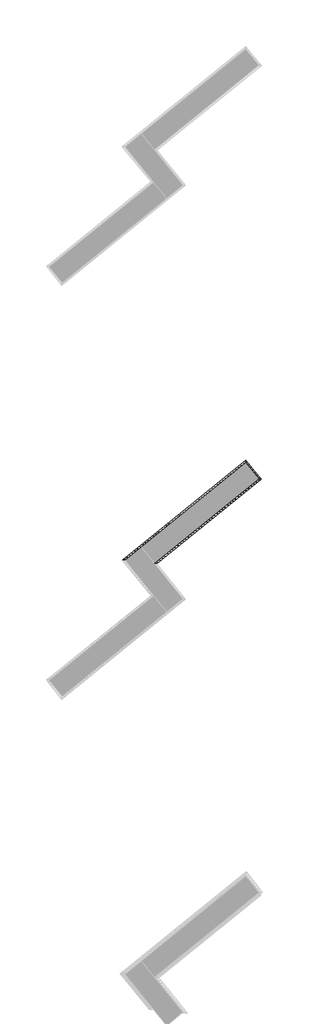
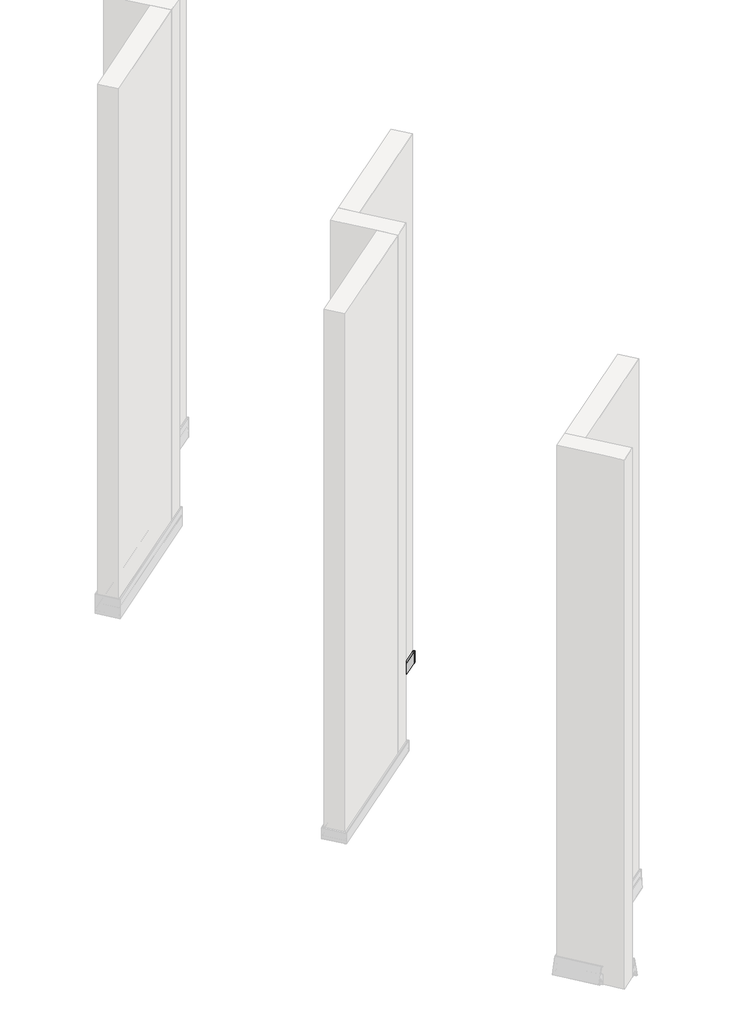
# One storey, part 7 of 21: 2 proxies.
"""IFC4 building model written with IfcOpenShell, lengths in millimetres."""

from ifc_helpers import new_model, si_unit, frame, origin, place, context, project, spatial, circle_curve, ellipse_curve, element, save
from ifc_brep_helpers import plane_surface, cylinder_surface, advanced_brep

model = new_model("IFC4")

# Units and contexts
model_context = context("Model", 3, world=origin())
ifc_project = project(units=[si_unit("LENGTHUNIT", "METRE", prefix="MILLI")], contexts=[model_context])

# Site, building, storey
site = spatial("IfcSite", under=ifc_project)
building = spatial("IfcBuilding", under=site)
storey = spatial("IfcBuildingStorey", under=building, Name="Izofleks 2D View", Elevation=0.0)

# Proxies
placement = place(None, origin())
element("IfcBuildingElementProxy", 1, Name="Wall Sweeps", at=placement, inside=storey, context=model_context, shape_type="AdvancedBrep", body=[
    advanced_brep(
    [(2292.1668459, -7174.088255, 49.8941385), (2293.3129652, -7174.208717, 48.7266957), (2292.7262724, -7174.1470531, 47.88979), (2289.8664199, -7173.8464705, 47.88979), (2289.8664199, -7173.8464705, 53.99999), (2288.0380278, -7173.6542987, 54.99999), (2288.0380278, -7173.6542987, 0.0), (2289.8664199, -7173.8464705, 0.0), (2289.8664199, -7173.8464705, 16.99999), (2296.8983438, -7174.5855554, 16.99999), (2296.8922655, -7174.5849166, 18.30079), (2294.6001982, -7174.3440106, 18.30079), (2297.3367663, -7174.6316355, 27.1404306), (2296.6513787, -7174.5595984, 27.7479135), (2295.2879611, -7174.4162974, 27.7479135), (2295.5576132, -7174.444639, 28.7655004), (2298.9439622, -7174.8005586, 28.7655004), (2298.9439622, -7174.8005586, 4.2583289), (2296.1306076, -7174.5048631, 4.2583289), (2296.1306076, -7174.5048631, 0.4656126), (2297.9590138, -7174.6970364, 0.4656126), (2297.9590138, -7174.6970364, 2.9583289), (2300.7723685, -7174.9927318, 2.9583289), (2300.7723685, -7174.9927318, 60.0), (2289.5206376, -7173.8101273, 60.0), (2289.5206376, -7173.8101273, 58.5), (2298.9439622, -7174.8005586, 58.5), (2298.9439622, -7174.8005586, 57.2161063), (2295.2404015, -7174.4112987, 57.2161063), (2293.8573559, -7174.2659347, 56.3978398), (2795.4642899, -6762.7486136, 49.8941385), (2796.3983848, -6761.9921985, 56.3978398), (2797.1625896, -6761.3733576, 57.2161063), (2799.2089999, -6759.7162072, 57.2161063), (2799.2089999, -6759.7162072, 58.5), (2794.0021219, -6763.9326539, 58.5), (2794.0021219, -6763.9326539, 60.0), (2800.2192896, -6758.8980907, 60.0), (2800.2192896, -6758.8980907, 2.9583289), (2798.6647646, -6760.1569203, 2.9583289), (2798.6647646, -6760.1569203, 0.4656126), (2797.6544748, -6760.9750368, 0.4656126), (2797.6544748, -6760.9750368, 4.2583289), (2799.2089999, -6759.7162072, 4.2583289), (2799.2089999, -6759.7162072, 28.7655004), (2797.3378655, -6761.2314219, 28.7655004), (2797.1888688, -6761.3520772, 27.7479135), (2797.942228, -6760.7420189, 27.7479135), (2798.3209404, -6760.4353436, 27.1404306), (2796.8088439, -6761.6598152, 18.30079), (2798.0753305, -6760.6342346, 18.30079), (2798.0786891, -6760.6315149, 16.99999), (2794.1931847, -6763.7779343, 16.99999), (2794.1931847, -6763.7779343, 0.0), (2793.1829027, -6764.5960445, 0.0), (2793.1829027, -6764.5960445, 54.99999), (2794.1931847, -6763.7779343, 53.99999), (2794.1931847, -6763.7779343, 47.88979), (2795.7734022, -6762.4982994, 47.88979), (2796.0975806, -6762.2357849, 48.7266957), (2797.3117208, -6765.0300008, 49.8941385), (2799.0022309, -6765.2076806, 56.3978398), (2800.3852765, -6765.3530445, 57.2161063), (2804.0888372, -6765.7423044, 57.2161063), (2804.0888372, -6765.7423044, 58.5), (2794.6655126, -6764.7518731, 58.5), (2794.6655126, -6764.7518731, 60.0), (2805.9172434, -6765.9344777, 60.0), (2805.9172434, -6765.9344777, 2.9583289), (2803.1038888, -6765.6387822, 2.9583289), (2803.1038888, -6765.6387822, 0.4656126), (2801.2754825, -6765.4466089, 0.4656126), (2801.2754825, -6765.4466089, 4.2583289), (2804.0888372, -6765.7423044, 4.2583289), (2804.0888372, -6765.7423044, 28.7655004), (2800.7024881, -6765.3863848, 28.7655004), (2800.4328361, -6765.3580432, 27.7479135), (2801.7962536, -6765.5013442, 27.7479135), (2802.4816413, -6765.5733813, 27.1404306), (2799.7450732, -6765.2857564, 18.30079), (2802.0371404, -6765.5266624, 18.30079), (2802.0432188, -6765.5273013, 16.99999), (2795.0112949, -6764.7882163, 16.99999), (2795.0112949, -6764.7882163, 0.0), (2795.0112949, -6764.7882163, 53.99999), (2795.0112949, -6764.7882163, 47.88979), (2797.8711473, -6765.0887989, 47.88979), (2798.4578402, -6765.1504628, 48.7266957)],
    [
        (0, 1, ellipse_curve(frame((2293.5498915, -7174.2336189, 49.712405), z_axis=(-0.10452846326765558, -0.9945218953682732, 0.0), x_axis=(0.9945218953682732, -0.10452846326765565, 0.0)), 1.4142136, 1.0)),
        (1, 2),
        (2, 3),
        (3, 4),
        (4, 5, ellipse_curve(frame((2288.3885058, -7173.6911354, 53.9789482), z_axis=(-0.10452846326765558, -0.9945218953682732, 0.0), x_axis=(0.9945218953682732, -0.10452846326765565, 0.0)), 1.4863528, 1.0510102)),
        (5, 6),
        (6, 7),
        (7, 8),
        (8, 9),
        (9, 10, ellipse_curve(frame((2296.7280877, -7174.5676608, 17.649995), z_axis=(-0.10452846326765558, -0.9945218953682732, 0.0), x_axis=(0.9945218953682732, -0.10452846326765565, 0.0)), 0.935051, 0.6611809)),
        (10, 11),
        (11, 12),
        (12, 13, ellipse_curve(frame((2296.6499722, -7174.5594505, 27.2479135), z_axis=(-0.10452846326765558, -0.9945218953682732, 0.0), x_axis=(0.9945218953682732, -0.10452846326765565, 0.0)), 0.7071082, 0.500001)),
        (13, 14),
        (14, 15),
        (15, 16),
        (16, 17),
        (17, 18),
        (18, 19),
        (19, 20),
        (20, 21),
        (21, 22),
        (22, 23),
        (23, 24),
        (24, 25),
        (25, 26),
        (26, 27),
        (27, 28),
        (28, 29, ellipse_curve(frame((2295.2404015, -7174.4112987, 56.2161063), z_axis=(-0.10452846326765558, -0.9945218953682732, 0.0), x_axis=(0.9945218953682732, -0.10452846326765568, 0.0)), 1.4142136, 1.0)),
        (29, 0),
        (30, 31),
        (31, 32, circle_curve(frame((2797.1625896, -6761.3733576, 56.2161063), z_axis=(-0.6293203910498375, 0.7771459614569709, 0.0), x_axis=(-0.76420478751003, -0.6188408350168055, 0.18173349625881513)), 1.0)),
        (32, 33),
        (33, 34),
        (34, 35),
        (35, 36),
        (36, 37),
        (37, 38),
        (38, 39),
        (39, 40),
        (40, 41),
        (41, 42),
        (42, 43),
        (43, 44),
        (44, 45),
        (45, 46),
        (46, 47),
        (47, 48, circle_curve(frame((2797.9414508, -6760.7426482, 27.2479135), z_axis=(-0.6293203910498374, 0.7771459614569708, 0.0), x_axis=(0.777145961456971, 0.6293203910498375, 0.0)), 0.500001)),
        (48, 49),
        (49, 50),
        (50, 51, circle_curve(frame((2797.9846137, -6760.7076956, 17.649995), z_axis=(-0.6293203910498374, 0.7771459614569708, 0.0), x_axis=(0.777145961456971, 0.6293203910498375, 0.0)), 0.6611809)),
        (51, 52),
        (52, 53),
        (53, 54),
        (54, 55),
        (55, 56, circle_curve(frame((2793.3765601, -6764.4392239, 53.9789482), z_axis=(-0.6293203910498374, 0.7771459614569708, 0.0), x_axis=(0.777145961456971, 0.6293203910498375, 0.0)), 1.0510102)),
        (56, 57),
        (57, 58),
        (58, 59),
        (59, 30, circle_curve(frame((2796.2284947, -6762.1297728, 49.712405), z_axis=(-0.6293203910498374, 0.7771459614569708, 0.0), x_axis=(0.777145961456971, 0.6293203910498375, 0.0)), 1.0)),
        (30, 60),
        (60, 61),
        (61, 31),
        (61, 62, ellipse_curve(frame((2800.3852765, -6765.3530445, 56.2161063), z_axis=(0.10452846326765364, 0.9945218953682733, 0.0), x_axis=(-0.9945218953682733, 0.10452846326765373, 0.0)), 1.4142136, 1.0)),
        (62, 32),
        (62, 63),
        (63, 33),
        (63, 64),
        (64, 34),
        (64, 65),
        (65, 35),
        (65, 66),
        (66, 36),
        (66, 67),
        (67, 37),
        (67, 68),
        (68, 38),
        (68, 69),
        (69, 39),
        (69, 70),
        (70, 40),
        (70, 71),
        (71, 41),
        (71, 72),
        (72, 42),
        (72, 73),
        (73, 43),
        (73, 74),
        (74, 44),
        (74, 75),
        (75, 45),
        (75, 76),
        (76, 46),
        (76, 77),
        (77, 47),
        (77, 78, ellipse_curve(frame((2801.7948471, -6765.5011964, 27.2479135), z_axis=(0.1045284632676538, 0.9945218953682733, 0.0), x_axis=(-0.9945218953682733, 0.10452846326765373, 0.0)), 0.7071082, 0.500001)),
        (78, 48),
        (78, 79),
        (79, 49),
        (79, 80),
        (80, 50),
        (80, 81, ellipse_curve(frame((2801.8729627, -6765.5094066, 17.649995), z_axis=(0.1045284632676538, 0.9945218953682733, 0.0), x_axis=(-0.9945218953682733, 0.10452846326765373, 0.0)), 0.935051, 0.6611809)),
        (81, 51),
        (81, 82),
        (82, 52),
        (82, 83),
        (83, 53),
        (83, 54),
        (55, 84, ellipse_curve(frame((2793.5333808, -6764.6328812, 53.9789482), z_axis=(0.1045284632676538, 0.9945218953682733, 0.0), x_axis=(-0.9945218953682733, 0.10452846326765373, 0.0)), 1.4863528, 1.0510102)),
        (84, 56),
        (84, 85),
        (85, 57),
        (85, 86),
        (86, 58),
        (86, 87),
        (87, 59),
        (87, 60, ellipse_curve(frame((2798.6947664, -6765.1753647, 49.712405), z_axis=(0.1045284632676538, 0.9945218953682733, 0.0), x_axis=(-0.9945218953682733, 0.10452846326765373, 0.0)), 1.4142136, 1.0)),
        (60, 0),
        (29, 61),
        (28, 62),
        (27, 63),
        (26, 64),
        (25, 65),
        (24, 66),
        (23, 67),
        (22, 68),
        (21, 69),
        (20, 70),
        (19, 71),
        (18, 72),
        (17, 73),
        (16, 74),
        (15, 75),
        (14, 76),
        (13, 77),
        (12, 78),
        (11, 79),
        (10, 80),
        (9, 81),
        (8, 82),
        (7, 83),
        (6, 54),
        (5, 55),
        (4, 84),
        (3, 85),
        (2, 86),
        (1, 87),
    ],
    [
        plane_surface(frame((2288.0380278, -7173.6542987, -304.8), z_axis=(-0.10452846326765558, -0.9945218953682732, 0.0), x_axis=(0.9945218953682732, -0.10452846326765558, 0.0))),
        plane_surface(frame((2793.1829027, -6764.5960445, 0.0), z_axis=(-0.6293203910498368, 0.7771459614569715, 0.0), x_axis=(0.7771459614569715, 0.6293203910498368, 0.0))),
        plane_surface(frame((2795.4642899, -6762.7486136, 49.8941385), z_axis=(-0.7642047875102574, -0.6188408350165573, 0.18173349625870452), x_axis=(0.6293203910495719, -0.777145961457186, 0.0))),
        cylinder_surface(frame((2797.1625896, -6761.3733576, 56.2161063), z_axis=(-0.6293203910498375, 0.7771459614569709, 0.0), x_axis=(-0.76420478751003, -0.6188408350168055, 0.18173349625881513)), 1.0),
        plane_surface(frame((2797.1625896, -6761.3733576, 57.2161063), z_axis=(0.0, 0.0, 1.0), x_axis=(0.6293203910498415, -0.7771459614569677, 0.0))),
        plane_surface(frame((2799.2089999, -6759.7162072, 57.2161063), z_axis=(-0.777145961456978, -0.6293203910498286, 0.0), x_axis=(0.6293203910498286, -0.777145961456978, 0.0))),
        plane_surface(frame((2799.2089999, -6759.7162072, 58.5), z_axis=(0.0, 0.0, -1.0), x_axis=(0.6293203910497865, -0.7771459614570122, 0.0))),
        plane_surface(frame((2794.0021219, -6763.9326539, 58.5), z_axis=(-0.7771459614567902, -0.6293203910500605, 0.0), x_axis=(0.6293203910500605, -0.7771459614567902, 0.0))),
        plane_surface(frame((2794.0021219, -6763.9326539, 60.0), z_axis=(0.0, 0.0, 1.0), x_axis=(0.6293203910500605, -0.7771459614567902, 0.0))),
        plane_surface(frame((2800.2192896, -6758.8980907, 60.0), z_axis=(0.7771459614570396, 0.6293203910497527, 0.0), x_axis=(0.6293203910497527, -0.7771459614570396, 0.0))),
        plane_surface(frame((2800.2192896, -6758.8980907, 2.9583289), z_axis=(0.0, 0.0, -1.0), x_axis=(0.6293203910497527, -0.7771459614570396, 0.0))),
        plane_surface(frame((2798.6647646, -6760.1569203, 2.9583289), z_axis=(0.7771459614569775, 0.6293203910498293, 0.0), x_axis=(0.6293203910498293, -0.7771459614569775, 0.0))),
        plane_surface(frame((2798.6647646, -6760.1569203, 0.4656126), z_axis=(0.0, 0.0, -1.0), x_axis=(0.6293203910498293, -0.7771459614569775, 0.0))),
        plane_surface(frame((2797.6544748, -6760.9750368, 0.4656126), z_axis=(-0.7771459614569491, -0.6293203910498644, 0.0), x_axis=(0.6293203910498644, -0.7771459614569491, 0.0))),
        plane_surface(frame((2797.6544748, -6760.9750368, 4.2583289), z_axis=(0.0, 0.0, 1.0), x_axis=(0.6293203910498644, -0.7771459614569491, 0.0))),
        plane_surface(frame((2799.2089999, -6759.7162072, 4.2583289), z_axis=(-0.777145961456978, -0.6293203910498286, 0.0), x_axis=(0.6293203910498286, -0.777145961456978, 0.0))),
        plane_surface(frame((2799.2089999, -6759.7162072, 28.7655004), z_axis=(0.0, 0.0, -1.0), x_axis=(0.6293203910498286, -0.777145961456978, 0.0))),
        plane_surface(frame((2797.3378655, -6761.2314219, 28.7655004), z_axis=(0.7637090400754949, 0.6184393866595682, -0.18515190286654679), x_axis=(0.6293203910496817, -0.777145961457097, 0.0))),
        plane_surface(frame((2797.1888688, -6761.3520772, 27.7479135), z_axis=(0.0, 0.0, 1.0000000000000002), x_axis=(0.6293203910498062, -0.7771459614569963, 0.0))),
        cylinder_surface(frame((2797.9414508, -6760.7426482, 27.2479135), z_axis=(-0.6293203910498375, 0.777145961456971, 0.0), x_axis=(0.777145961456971, 0.6293203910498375, 0.0)), 0.500001),
        plane_surface(frame((2798.3209404, -6760.4353436, 27.1404306), z_axis=(0.7589775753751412, 0.6146079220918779, -0.21496544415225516), x_axis=(0.6293203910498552, -0.7771459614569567, 0.0))),
        plane_surface(frame((2796.8088439, -6761.6598152, 18.30079), z_axis=(0.0, 0.0, 1.0), x_axis=(0.6293203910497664, -0.7771459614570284, 0.0))),
        cylinder_surface(frame((2797.9846137, -6760.7076956, 17.649995), z_axis=(-0.6293203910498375, 0.777145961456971, 0.0), x_axis=(0.777145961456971, 0.6293203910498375, 0.0)), 0.6611809),
        plane_surface(frame((2798.0786891, -6760.6315149, 16.99999), z_axis=(0.0, 0.0, -1.0000000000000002), x_axis=(0.6293203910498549, -0.7771459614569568, 0.0))),
        plane_surface(frame((2794.1931847, -6763.7779343, 16.99999), z_axis=(0.777145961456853, 0.6293203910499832, 0.0), x_axis=(0.6293203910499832, -0.777145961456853, 0.0))),
        plane_surface(frame((2794.1931847, -6763.7779343, 0.0), z_axis=(0.0, 0.0, -1.0), x_axis=(0.6293203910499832, -0.777145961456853, 0.0))),
        cylinder_surface(frame((2793.3765601, -6764.4392239, 53.9789482), z_axis=(-0.6293203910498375, 0.777145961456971, 0.0), x_axis=(0.777145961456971, 0.6293203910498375, 0.0)), 1.0510102),
        plane_surface(frame((2794.1931847, -6763.7779343, 53.99999), z_axis=(0.777145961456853, 0.6293203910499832, 0.0), x_axis=(0.6293203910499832, -0.777145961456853, 0.0))),
        plane_surface(frame((2794.1931847, -6763.7779343, 47.88979), z_axis=(0.0, 0.0, 1.0), x_axis=(0.6293203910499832, -0.777145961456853, 0.0))),
        plane_surface(frame((2795.7734022, -6762.4982994, 47.88979), z_axis=(-0.6955364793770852, -0.5632343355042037, 0.44608977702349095), x_axis=(0.6293203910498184, -0.7771459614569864, 0.0))),
        cylinder_surface(frame((2796.2284947, -6762.1297728, 49.712405), z_axis=(-0.6293203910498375, 0.777145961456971, 0.0), x_axis=(0.777145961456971, 0.6293203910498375, 0.0)), 1.0),
        plane_surface(frame((2797.3117208, -6765.0300008, 49.8941385), z_axis=(-0.6188408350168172, 0.764204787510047, 0.18173349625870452), x_axis=(-0.7771459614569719, -0.6293203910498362, 0.0))),
        cylinder_surface(frame((2796.4055896, -6768.5757314, 56.2161063), z_axis=(0.7771459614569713, 0.6293203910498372, 0.0), x_axis=(-0.6188408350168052, 0.7642047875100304, 0.18173349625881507)), 1.0),
        plane_surface(frame((2800.3852765, -6765.3530445, 57.2161063), z_axis=(0.0, 0.0, 1.0), x_axis=(-0.7771459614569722, -0.6293203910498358, 0.0))),
        plane_surface(frame((2804.0888372, -6765.7423044, 57.2161063), z_axis=(-0.6293203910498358, 0.7771459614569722, 0.0), x_axis=(-0.7771459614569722, -0.6293203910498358, 0.0))),
        plane_surface(frame((2804.0888372, -6765.7423044, 58.5), z_axis=(0.0, 0.0, -1.0), x_axis=(-0.7771459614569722, -0.6293203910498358, 0.0))),
        plane_surface(frame((2794.6655126, -6764.7518731, 58.5), z_axis=(-0.6293203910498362, 0.7771459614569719, 0.0), x_axis=(-0.7771459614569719, -0.6293203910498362, 0.0))),
        plane_surface(frame((2794.6655126, -6764.7518731, 60.0), z_axis=(0.0, 0.0, 1.0), x_axis=(-0.7771459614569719, -0.6293203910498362, 0.0))),
        plane_surface(frame((2805.9172434, -6765.9344777, 60.0), z_axis=(0.6293203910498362, -0.7771459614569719, 0.0), x_axis=(-0.7771459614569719, -0.6293203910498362, 0.0))),
        plane_surface(frame((2805.9172434, -6765.9344777, 2.9583289), z_axis=(0.0, 0.0, -1.0), x_axis=(-0.7771459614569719, -0.6293203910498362, 0.0))),
        plane_surface(frame((2803.1038888, -6765.6387822, 2.9583289), z_axis=(0.6293203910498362, -0.7771459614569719, 0.0), x_axis=(-0.7771459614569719, -0.6293203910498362, 0.0))),
        plane_surface(frame((2803.1038888, -6765.6387822, 0.4656126), z_axis=(0.0, 0.0, -1.0), x_axis=(-0.7771459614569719, -0.6293203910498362, 0.0))),
        plane_surface(frame((2801.2754825, -6765.4466089, 0.4656126), z_axis=(-0.6293203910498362, 0.7771459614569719, 0.0), x_axis=(-0.7771459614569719, -0.6293203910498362, 0.0))),
        plane_surface(frame((2801.2754825, -6765.4466089, 4.2583289), z_axis=(0.0, 0.0, 1.0), x_axis=(-0.7771459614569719, -0.6293203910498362, 0.0))),
        plane_surface(frame((2804.0888372, -6765.7423044, 4.2583289), z_axis=(-0.6293203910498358, 0.7771459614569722, 0.0), x_axis=(-0.7771459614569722, -0.6293203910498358, 0.0))),
        plane_surface(frame((2804.0888372, -6765.7423044, 28.7655004), z_axis=(0.0, 0.0, -1.0), x_axis=(-0.7771459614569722, -0.6293203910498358, 0.0))),
        plane_surface(frame((2800.7024881, -6765.3863848, 28.7655004), z_axis=(0.61843938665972, -0.763709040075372, -0.18515190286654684), x_axis=(-0.7771459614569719, -0.6293203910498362, 0.0))),
        plane_surface(frame((2800.4328361, -6765.3580432, 27.7479135), z_axis=(0.0, 0.0, 1.0), x_axis=(-0.7771459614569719, -0.6293203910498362, 0.0))),
        cylinder_surface(frame((2797.036299, -6769.3545927, 27.2479135), z_axis=(0.7771459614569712, 0.629320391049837, 0.0), x_axis=(0.629320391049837, -0.7771459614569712, 0.0)), 0.500001),
        plane_surface(frame((2802.4816413, -6765.5733813, 27.1404306), z_axis=(0.6146079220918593, -0.7589775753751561, -0.2149654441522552), x_axis=(-0.7771459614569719, -0.6293203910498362, 0.0))),
        plane_surface(frame((2799.7450732, -6765.2857564, 18.30079), z_axis=(0.0, 0.0, 1.0), x_axis=(-0.7771459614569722, -0.6293203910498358, 0.0))),
        cylinder_surface(frame((2797.0712516, -6769.3977556, 17.649995), z_axis=(0.7771459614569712, 0.629320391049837, 0.0), x_axis=(0.629320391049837, -0.7771459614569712, 0.0)), 0.6611809),
        plane_surface(frame((2802.0432188, -6765.5273013, 16.99999), z_axis=(0.0, 0.0, -1.0), x_axis=(-0.7771459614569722, -0.6293203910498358, 0.0))),
        plane_surface(frame((2795.0112949, -6764.7882163, 16.99999), z_axis=(0.6293203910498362, -0.7771459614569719, 0.0), x_axis=(-0.7771459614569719, -0.6293203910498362, 0.0))),
        plane_surface(frame((2795.0112949, -6764.7882163, 0.0), z_axis=(0.0, 0.0, -1.0), x_axis=(-0.7771459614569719, -0.6293203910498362, 0.0))),
        plane_surface(frame((2793.1829027, -6764.5960445, 0.0), z_axis=(-0.6293203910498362, 0.7771459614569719, 0.0), x_axis=(-0.7771459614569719, -0.6293203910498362, 0.0))),
        cylinder_surface(frame((2793.3397234, -6764.7897019, 53.9789482), z_axis=(0.7771459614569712, 0.629320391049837, 0.0), x_axis=(0.629320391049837, -0.7771459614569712, 0.0)), 1.0510102),
        plane_surface(frame((2795.0112949, -6764.7882163, 53.99999), z_axis=(0.6293203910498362, -0.7771459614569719, 0.0), x_axis=(-0.7771459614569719, -0.6293203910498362, 0.0))),
        plane_surface(frame((2795.0112949, -6764.7882163, 47.88979), z_axis=(0.0, 0.0, 1.0), x_axis=(-0.7771459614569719, -0.6293203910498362, 0.0))),
        plane_surface(frame((2797.8711473, -6765.0887989, 47.88979), z_axis=(-0.5632343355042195, 0.6955364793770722, 0.44608977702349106), x_axis=(-0.7771459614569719, -0.6293203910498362, 0.0))),
        cylinder_surface(frame((2795.6491745, -6767.6416365, 49.712405), z_axis=(0.7771459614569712, 0.629320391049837, 0.0), x_axis=(0.629320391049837, -0.7771459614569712, 0.0)), 1.0),
    ],
    [
        (0, [[1, 2, 3, 4, 5, 6, 7, 8, 9, 10, 11, 12, 13, 14, 15, 16, 17, 18, 19, 20, 21, 22, 23, 24, 25, 26, 27, 28, 29, 30]]),
        (1, [[31, 32, 33, 34, 35, 36, 37, 38, 39, 40, 41, 42, 43, 44, 45, 46, 47, 48, 49, 50, 51, 52, 53, 54, 55, 56, 57, 58, 59, 60]]),
        (2, [[-31, 61, 62, 63]]),
        (3, [[-32, -63, 64, 65]]),
        (4, [[-33, -65, 66, 67]]),
        (5, [[-34, -67, 68, 69]]),
        (6, [[-35, -69, 70, 71]]),
        (7, [[-36, -71, 72, 73]]),
        (8, [[-37, -73, 74, 75]]),
        (9, [[-38, -75, 76, 77]]),
        (10, [[-39, -77, 78, 79]]),
        (11, [[-40, -79, 80, 81]]),
        (12, [[-41, -81, 82, 83]]),
        (13, [[-42, -83, 84, 85]]),
        (14, [[-43, -85, 86, 87]]),
        (15, [[-44, -87, 88, 89]]),
        (16, [[-45, -89, 90, 91]]),
        (17, [[-46, -91, 92, 93]]),
        (18, [[-47, -93, 94, 95]]),
        (19, [[-48, -95, 96, 97]]),
        (20, [[-49, -97, 98, 99]]),
        (21, [[-50, -99, 100, 101]]),
        (22, [[-51, -101, 102, 103]]),
        (23, [[-52, -103, 104, 105]]),
        (24, [[-53, -105, 106, 107]]),
        (25, [[-54, -107, 108]]),
        (26, [[-56, 109, 110]]),
        (27, [[-57, -110, 111, 112]]),
        (28, [[-58, -112, 113, 114]]),
        (29, [[-59, -114, 115, 116]]),
        (30, [[-60, -116, 117, -61]]),
        (31, [[-62, 118, -30, 119]]),
        (32, [[-64, -119, -29, 120]]),
        (33, [[-66, -120, -28, 121]]),
        (34, [[-68, -121, -27, 122]]),
        (35, [[-70, -122, -26, 123]]),
        (36, [[-72, -123, -25, 124]]),
        (37, [[-74, -124, -24, 125]]),
        (38, [[-76, -125, -23, 126]]),
        (39, [[-78, -126, -22, 127]]),
        (40, [[-80, -127, -21, 128]]),
        (41, [[-82, -128, -20, 129]]),
        (42, [[-84, -129, -19, 130]]),
        (43, [[-86, -130, -18, 131]]),
        (44, [[-88, -131, -17, 132]]),
        (45, [[-90, -132, -16, 133]]),
        (46, [[-92, -133, -15, 134]]),
        (47, [[-94, -134, -14, 135]]),
        (48, [[-96, -135, -13, 136]]),
        (49, [[-98, -136, -12, 137]]),
        (50, [[-100, -137, -11, 138]]),
        (51, [[-102, -138, -10, 139]]),
        (52, [[-104, -139, -9, 140]]),
        (53, [[-106, -140, -8, 141]]),
        (54, [[-108, -141, -7, 142]]),
        (55, [[-55, -142, -6, 143]]),
        (56, [[-109, -143, -5, 144]]),
        (57, [[-111, -144, -4, 145]]),
        (58, [[-113, -145, -3, 146]]),
        (59, [[-115, -146, -2, 147]]),
        (60, [[-117, -147, -1, -118]]),
    ],
),
])
element("IfcBuildingElementProxy", 2, Name="Wall Sweeps", at=placement, inside=storey, context=model_context, shape_type="AdvancedBrep", body=[
    advanced_brep(
    [(2143.2625744, -7158.4377854, 49.8941385), (2141.5720643, -7158.2601056, 56.3978398), (2140.1890187, -7158.1147417, 57.2161063), (2136.485458, -7157.7254818, 57.2161063), (2136.485458, -7157.7254818, 58.5), (2145.9087826, -7158.7159131, 58.5), (2145.9087826, -7158.7159131, 60.0), (2134.6570518, -7157.5333085, 60.0), (2134.6570518, -7157.5333085, 2.9583289), (2137.4704064, -7157.829004, 2.9583289), (2137.4704064, -7157.829004, 0.4656126), (2139.2988127, -7158.0211772, 0.4656126), (2139.2988127, -7158.0211772, 4.2583289), (2136.485458, -7157.7254818, 4.2583289), (2136.485458, -7157.7254818, 28.7655004), (2139.8718071, -7158.0814014, 28.7655004), (2140.1414591, -7158.109743, 27.7479135), (2138.7780416, -7157.966442, 27.7479135), (2138.0926539, -7157.8944049, 27.1404306), (2140.829222, -7158.1820298, 18.30079), (2138.5371548, -7157.9411238, 18.30079), (2138.5310764, -7157.9404849, 16.99999), (2145.5630003, -7158.6795699, 16.99999), (2145.5630003, -7158.6795699, 0.0), (2147.3913925, -7158.8717417, 0.0), (2147.3913925, -7158.8717417, 54.99999), (2145.5630003, -7158.6795699, 53.99999), (2145.5630003, -7158.6795699, 47.88979), (2142.7031479, -7158.3789873, 47.88979), (2142.116455, -7158.3173234, 48.7266957), (2801.2053333, -6769.8382117, 49.8941385), (2801.8386239, -6769.325383, 48.7266957), (2801.5144456, -6769.5878975, 47.88979), (2799.934228, -6770.8675324, 47.88979), (2799.934228, -6770.8675324, 53.99999), (2798.9239461, -6771.6856426, 54.99999), (2798.9239461, -6771.6856426, 0.0), (2799.934228, -6770.8675324, 0.0), (2799.934228, -6770.8675324, 16.99999), (2803.8197325, -6767.721113, 16.99999), (2803.8163739, -6767.7238327, 18.30079), (2802.5498873, -6768.7494134, 18.30079), (2804.0619837, -6767.5249418, 27.1404306), (2803.6832713, -6767.831617, 27.7479135), (2802.9299121, -6768.4416753, 27.7479135), (2803.0789089, -6768.3210201, 28.7655004), (2804.9500432, -6766.8058054, 28.7655004), (2804.9500432, -6766.8058054, 4.2583289), (2803.3955182, -6768.0646349, 4.2583289), (2803.3955182, -6768.0646349, 0.4656126), (2804.4058079, -6767.2465184, 0.4656126), (2804.4058079, -6767.2465184, 2.9583289), (2805.960333, -6765.9876889, 2.9583289), (2805.960333, -6765.9876889, 60.0), (2799.7431653, -6771.022252, 60.0), (2799.7431653, -6771.022252, 58.5), (2804.9500432, -6766.8058054, 58.5), (2804.9500432, -6766.8058054, 57.2161063), (2802.903633, -6768.4629557, 57.2161063), (2802.1394282, -6769.0817966, 56.3978398), (2730.6848199, -6682.7526303, 49.8941385), (2730.8052819, -6681.6065109, 48.7266957), (2730.743618, -6682.1932038, 47.88979), (2730.4430354, -6685.0530562, 47.88979), (2730.4430354, -6685.0530562, 53.99999), (2730.2508636, -6686.8814484, 54.99999), (2730.2508636, -6686.8814484, 0.0), (2793.1829027, -6764.5960445, 0.0), (2730.4430354, -6685.0530562, 0.0), (2730.4430354, -6685.0530562, 16.99999), (2731.1821203, -6678.0211323, 16.99999), (2731.1814815, -6678.0272106, 18.30079), (2730.9405755, -6680.3192779, 18.30079), (2731.2282004, -6677.5827098, 27.1404306), (2731.1561633, -6678.2680975, 27.7479135), (2731.0128623, -6679.631515, 27.7479135), (2731.0412039, -6679.361863, 28.7655004), (2731.3971235, -6675.9755139, 28.7655004), (2731.3971235, -6675.9755139, 4.2583289), (2731.101428, -6678.7888686, 4.2583289), (2731.101428, -6678.7888686, 0.4656126), (2731.2936013, -6676.9604623, 0.4656126), (2731.2936013, -6676.9604623, 2.9583289), (2731.5892967, -6674.1471077, 2.9583289), (2731.5892967, -6674.1471077, 60.0), (2730.4066922, -6685.3988385, 60.0), (2730.4066922, -6685.3988385, 58.5), (2731.3971235, -6675.9755139, 58.5), (2731.3971235, -6675.9755139, 57.2161063), (2731.0078636, -6679.6790746, 57.2161063), (2730.8624996, -6681.0621202, 56.3978398), (2225.1059886, -7095.9397026, 0.0)],
    [
        (0, 1),
        (1, 2, ellipse_curve(frame((2140.1890187, -7158.1147417, 56.2161063), z_axis=(-0.10452846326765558, -0.9945218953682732, 0.0), x_axis=(0.9945218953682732, -0.1045284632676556, 0.0)), 1.4142136, 1.0)),
        (2, 3),
        (3, 4),
        (4, 5),
        (5, 6),
        (6, 7),
        (7, 8),
        (8, 9),
        (9, 10),
        (10, 11),
        (11, 12),
        (12, 13),
        (13, 14),
        (14, 15),
        (15, 16),
        (16, 17),
        (17, 18, ellipse_curve(frame((2138.7794481, -7157.9665898, 27.2479135), z_axis=(-0.10452846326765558, -0.9945218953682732, 0.0), x_axis=(0.9945218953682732, -0.10452846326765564, 0.0)), 0.7071082, 0.500001)),
        (18, 19),
        (19, 20),
        (20, 21, ellipse_curve(frame((2138.7013325, -7157.9583796, 17.649995), z_axis=(-0.10452846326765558, -0.9945218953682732, 0.0), x_axis=(0.9945218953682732, -0.10452846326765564, 0.0)), 0.935051, 0.6611809)),
        (21, 22),
        (22, 23),
        (23, 24),
        (24, 25),
        (25, 26, ellipse_curve(frame((2147.0409144, -7158.8349049, 53.9789482), z_axis=(-0.10452846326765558, -0.9945218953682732, 0.0), x_axis=(0.9945218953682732, -0.10452846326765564, 0.0)), 1.4863528, 1.0510102)),
        (26, 27),
        (27, 28),
        (28, 29),
        (29, 0, ellipse_curve(frame((2141.8795288, -7158.2924214, 49.712405), z_axis=(-0.10452846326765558, -0.9945218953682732, 0.0), x_axis=(0.9945218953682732, -0.10452846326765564, 0.0)), 1.4142136, 1.0)),
        (30, 31, circle_curve(frame((2801.969538, -6769.2193709, 49.712405), z_axis=(0.6293203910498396, -0.7771459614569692, 0.0), x_axis=(0.7771459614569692, 0.6293203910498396, 0.0)), 1.0)),
        (31, 32),
        (32, 33),
        (33, 34),
        (34, 35, circle_curve(frame((2799.1176035, -6771.528822, 53.9789482), z_axis=(0.6293203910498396, -0.7771459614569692, 0.0), x_axis=(0.7771459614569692, 0.6293203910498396, 0.0)), 1.0510102)),
        (35, 36),
        (36, 37),
        (37, 38),
        (38, 39),
        (39, 40, circle_curve(frame((2803.7256571, -6767.7972937, 17.649995), z_axis=(0.6293203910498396, -0.7771459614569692, 0.0), x_axis=(0.7771459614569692, 0.6293203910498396, 0.0)), 0.6611809)),
        (40, 41),
        (41, 42),
        (42, 43, circle_curve(frame((2803.6824942, -6767.8322463, 27.2479135), z_axis=(0.6293203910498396, -0.7771459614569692, 0.0), x_axis=(0.7771459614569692, 0.6293203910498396, 0.0)), 0.500001)),
        (43, 44),
        (44, 45),
        (45, 46),
        (46, 47),
        (47, 48),
        (48, 49),
        (49, 50),
        (50, 51),
        (51, 52),
        (52, 53),
        (53, 54),
        (54, 55),
        (55, 56),
        (56, 57),
        (57, 58),
        (58, 59, circle_curve(frame((2802.903633, -6768.4629557, 56.2161063), z_axis=(0.6293203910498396, -0.7771459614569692, 0.0), x_axis=(-0.7642047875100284, -0.6188408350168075, 0.18173349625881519)), 1.0)),
        (59, 30),
        (30, 60),
        (60, 61, ellipse_curve(frame((2730.8301838, -6681.3695846, 49.712405), z_axis=(0.9945218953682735, -0.10452846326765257, 0.0), x_axis=(-0.1045284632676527, -0.9945218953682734, 0.0)), 1.4142136, 1.0)),
        (61, 31),
        (61, 62),
        (62, 32),
        (62, 63),
        (63, 33),
        (63, 64),
        (64, 34),
        (64, 65, ellipse_curve(frame((2730.2877003, -6686.5309703, 53.9789482), z_axis=(0.9945218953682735, -0.10452846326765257, 0.0), x_axis=(-0.1045284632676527, -0.9945218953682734, 0.0)), 1.4863528, 1.0510102)),
        (65, 35),
        (65, 66),
        (66, 67),
        (67, 36),
        (66, 68),
        (68, 37),
        (68, 69),
        (69, 38),
        (69, 70),
        (70, 39),
        (70, 71, ellipse_curve(frame((2731.1642257, -6678.1913884, 17.649995), z_axis=(0.9945218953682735, -0.10452846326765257, 0.0), x_axis=(-0.1045284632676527, -0.9945218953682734, 0.0)), 0.935051, 0.6611809)),
        (71, 40),
        (71, 72),
        (72, 41),
        (72, 73),
        (73, 42),
        (73, 74, ellipse_curve(frame((2731.1560154, -6678.2695039, 27.2479135), z_axis=(0.9945218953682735, -0.10452846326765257, 0.0), x_axis=(-0.1045284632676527, -0.9945218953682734, 0.0)), 0.7071082, 0.500001)),
        (74, 43),
        (74, 75),
        (75, 44),
        (75, 76),
        (76, 45),
        (76, 77),
        (77, 46),
        (77, 78),
        (78, 47),
        (78, 79),
        (79, 48),
        (79, 80),
        (80, 49),
        (80, 81),
        (81, 50),
        (81, 82),
        (82, 51),
        (82, 83),
        (83, 52),
        (83, 84),
        (84, 53),
        (84, 85),
        (85, 54),
        (85, 86),
        (86, 55),
        (86, 87),
        (87, 56),
        (87, 88),
        (88, 57),
        (88, 89),
        (89, 58),
        (89, 90, ellipse_curve(frame((2731.0078636, -6679.6790746, 56.2161063), z_axis=(0.9945218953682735, -0.10452846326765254, 0.0), x_axis=(-0.1045284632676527, -0.9945218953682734, 0.0)), 1.4142136, 1.0)),
        (90, 59),
        (90, 60),
        (60, 0),
        (29, 61),
        (28, 62),
        (27, 63),
        (26, 64),
        (25, 65),
        (24, 91),
        (91, 66),
        (23, 68),
        (22, 69),
        (21, 70),
        (20, 71),
        (19, 72),
        (18, 73),
        (17, 74),
        (16, 75),
        (15, 76),
        (14, 77),
        (13, 78),
        (12, 79),
        (11, 80),
        (10, 81),
        (9, 82),
        (8, 83),
        (7, 84),
        (6, 85),
        (5, 86),
        (4, 87),
        (3, 88),
        (2, 89),
        (1, 90),
    ],
    [
        plane_surface(frame((2147.3913925, -7158.8717417, -304.8), z_axis=(-0.10452846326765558, -0.9945218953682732, 0.0), x_axis=(0.9945218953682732, -0.10452846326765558, 0.0))),
        plane_surface(frame((2798.9239461, -6771.6856426, 0.0), z_axis=(0.6293203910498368, -0.7771459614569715, 0.0), x_axis=(-0.7771459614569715, -0.6293203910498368, 0.0))),
        cylinder_surface(frame((2801.969538, -6769.2193709, 49.712405), z_axis=(0.6293203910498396, -0.7771459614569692, 0.0), x_axis=(0.7771459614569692, 0.6293203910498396, 0.0)), 1.0),
        plane_surface(frame((2801.8386239, -6769.325383, 48.7266957), z_axis=(-0.6955364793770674, -0.5632343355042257, 0.4460897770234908), x_axis=(-0.6293203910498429, 0.7771459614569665, 0.0))),
        plane_surface(frame((2801.5144456, -6769.5878975, 47.88979), z_axis=(0.0, 0.0, 1.0), x_axis=(-0.6293203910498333, 0.7771459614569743, 0.0))),
        plane_surface(frame((2799.934228, -6770.8675324, 47.88979), z_axis=(0.7771459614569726, 0.6293203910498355, 0.0), x_axis=(-0.6293203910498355, 0.7771459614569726, 0.0))),
        cylinder_surface(frame((2799.1176035, -6771.528822, 53.9789482), z_axis=(0.6293203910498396, -0.7771459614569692, 0.0), x_axis=(0.7771459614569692, 0.6293203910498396, 0.0)), 1.0510102),
        plane_surface(frame((2798.9239461, -6771.6856426, 54.99999), z_axis=(-0.7771459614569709, -0.6293203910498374, 0.0), x_axis=(-0.6293203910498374, 0.7771459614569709, 0.0))),
        plane_surface(frame((2798.9239461, -6771.6856426, 0.0), z_axis=(0.0, 0.0, -1.0), x_axis=(-0.6293203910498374, 0.7771459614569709, 0.0))),
        plane_surface(frame((2799.934228, -6770.8675324, 0.0), z_axis=(0.7771459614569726, 0.6293203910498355, 0.0), x_axis=(-0.6293203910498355, 0.7771459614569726, 0.0))),
        plane_surface(frame((2799.934228, -6770.8675324, 16.99999), z_axis=(0.0, 0.0, -1.0), x_axis=(-0.6293203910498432, 0.7771459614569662, 0.0))),
        cylinder_surface(frame((2803.7256571, -6767.7972937, 17.649995), z_axis=(0.6293203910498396, -0.7771459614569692, 0.0), x_axis=(0.7771459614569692, 0.6293203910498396, 0.0)), 0.6611809),
        plane_surface(frame((2803.8163739, -6767.7238327, 18.30079), z_axis=(0.0, 0.0, 1.0), x_axis=(-0.6293203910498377, 0.7771459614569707, 0.0))),
        plane_surface(frame((2802.5498873, -6768.7494134, 18.30079), z_axis=(0.7589775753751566, 0.6146079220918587, -0.21496544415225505), x_axis=(-0.6293203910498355, 0.7771459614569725, 0.0))),
        cylinder_surface(frame((2803.6824942, -6767.8322463, 27.2479135), z_axis=(0.6293203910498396, -0.7771459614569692, 0.0), x_axis=(0.7771459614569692, 0.6293203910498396, 0.0)), 0.500001),
        plane_surface(frame((2803.6832713, -6767.831617, 27.7479135), z_axis=(0.0, 0.0, 1.0000000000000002), x_axis=(-0.629320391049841, 0.7771459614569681, 0.0))),
        plane_surface(frame((2802.9299121, -6768.4416753, 27.7479135), z_axis=(0.763709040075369, 0.6184393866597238, -0.18515190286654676), x_axis=(-0.6293203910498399, 0.7771459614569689, 0.0))),
        plane_surface(frame((2803.0789089, -6768.3210201, 28.7655004), z_axis=(0.0, 0.0, -1.0000000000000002), x_axis=(-0.6293203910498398, 0.777145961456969, 0.0))),
        plane_surface(frame((2804.9500432, -6766.8058054, 28.7655004), z_axis=(-0.777145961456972, -0.6293203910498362, 0.0), x_axis=(-0.6293203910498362, 0.777145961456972, 0.0))),
        plane_surface(frame((2804.9500432, -6766.8058054, 4.2583289), z_axis=(0.0, 0.0, 1.0), x_axis=(-0.629320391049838, 0.7771459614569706, 0.0))),
        plane_surface(frame((2803.3955182, -6768.0646349, 4.2583289), z_axis=(-0.7771459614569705, -0.6293203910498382, 0.0), x_axis=(-0.6293203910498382, 0.7771459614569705, 0.0))),
        plane_surface(frame((2803.3955182, -6768.0646349, 0.4656126), z_axis=(0.0, 0.0, -1.0000000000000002), x_axis=(-0.6293203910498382, 0.7771459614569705, 0.0))),
        plane_surface(frame((2804.4058079, -6767.2465184, 0.4656126), z_axis=(0.7771459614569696, 0.6293203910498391, 0.0), x_axis=(-0.6293203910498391, 0.7771459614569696, 0.0))),
        plane_surface(frame((2804.4058079, -6767.2465184, 2.9583289), z_axis=(0.0, 0.0, -1.0), x_axis=(-0.6293203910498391, 0.7771459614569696, 0.0))),
        plane_surface(frame((2805.960333, -6765.9876889, 2.9583289), z_axis=(0.7771459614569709, 0.6293203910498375, 0.0), x_axis=(-0.6293203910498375, 0.7771459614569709, 0.0))),
        plane_surface(frame((2805.960333, -6765.9876889, 60.0), z_axis=(0.0, 0.0, 1.0000000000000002), x_axis=(-0.6293203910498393, 0.7771459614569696, 0.0))),
        plane_surface(frame((2799.7431653, -6771.022252, 60.0), z_axis=(-0.7771459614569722, -0.6293203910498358, 0.0), x_axis=(-0.6293203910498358, 0.7771459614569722, 0.0))),
        plane_surface(frame((2799.7431653, -6771.022252, 58.5), z_axis=(0.0, 0.0, -1.0), x_axis=(-0.6293203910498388, 0.7771459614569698, 0.0))),
        plane_surface(frame((2804.9500432, -6766.8058054, 58.5), z_axis=(-0.777145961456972, -0.6293203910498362, 0.0), x_axis=(-0.6293203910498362, 0.777145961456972, 0.0))),
        plane_surface(frame((2804.9500432, -6766.8058054, 57.2161063), z_axis=(0.0, 0.0, 1.0), x_axis=(-0.629320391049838, 0.7771459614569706, 0.0))),
        cylinder_surface(frame((2802.903633, -6768.4629557, 56.2161063), z_axis=(0.6293203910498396, -0.7771459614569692, 0.0), x_axis=(-0.7642047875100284, -0.6188408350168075, 0.18173349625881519)), 1.0),
        plane_surface(frame((2802.1394282, -6769.0817966, 56.3978398), z_axis=(-0.764204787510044, -0.6188408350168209, 0.18173349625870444), x_axis=(-0.6293203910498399, 0.7771459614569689, 0.0))),
        cylinder_surface(frame((2727.7845918, -6683.8358564, 49.712405), z_axis=(0.7771459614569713, 0.6293203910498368, 0.0), x_axis=(-0.6293203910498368, 0.7771459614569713, 0.0)), 1.0),
        plane_surface(frame((2730.8052819, -6681.6065109, 48.7266957), z_axis=(0.5632343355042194, -0.6955364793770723, 0.4460897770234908), x_axis=(-0.777145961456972, -0.6293203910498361, 0.0))),
        plane_surface(frame((2730.743618, -6682.1932038, 47.88979), z_axis=(0.0, 0.0, 1.0), x_axis=(-0.7771459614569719, -0.6293203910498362, 0.0))),
        plane_surface(frame((2730.4430354, -6685.0530562, 47.88979), z_axis=(-0.629320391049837, 0.7771459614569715, 0.0), x_axis=(-0.7771459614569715, -0.629320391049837, 0.0))),
        cylinder_surface(frame((2730.0940429, -6686.687791, 53.9789482), z_axis=(0.7771459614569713, 0.6293203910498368, 0.0), x_axis=(-0.6293203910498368, 0.7771459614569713, 0.0)), 1.0510102),
        plane_surface(frame((2730.2508636, -6686.8814484, 54.99999), z_axis=(0.629320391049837, -0.7771459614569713, 0.0), x_axis=(-0.7771459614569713, -0.629320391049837, 0.0))),
        plane_surface(frame((2730.2508636, -6686.8814484, 0.0), z_axis=(0.0, 0.0, -1.0), x_axis=(-0.7771459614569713, -0.629320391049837, 0.0))),
        plane_surface(frame((2730.4430354, -6685.0530562, 0.0), z_axis=(-0.629320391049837, 0.7771459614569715, 0.0), x_axis=(-0.7771459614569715, -0.629320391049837, 0.0))),
        plane_surface(frame((2730.4430354, -6685.0530562, 16.99999), z_axis=(0.0, 0.0, -1.0), x_axis=(-0.7771459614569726, -0.6293203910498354, 0.0))),
        cylinder_surface(frame((2726.3625147, -6682.0797373, 17.649995), z_axis=(0.7771459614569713, 0.6293203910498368, 0.0), x_axis=(-0.6293203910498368, 0.7771459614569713, 0.0)), 0.6611809),
        plane_surface(frame((2731.1814815, -6678.0272106, 18.30079), z_axis=(0.0, 0.0, 1.0), x_axis=(-0.7771459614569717, -0.6293203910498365, 0.0))),
        plane_surface(frame((2730.9405755, -6680.3192779, 18.30079), z_axis=(-0.61460792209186, 0.7589775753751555, -0.214965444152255), x_axis=(-0.7771459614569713, -0.6293203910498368, 0.0))),
        cylinder_surface(frame((2726.3974673, -6682.1229002, 27.2479135), z_axis=(0.7771459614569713, 0.6293203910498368, 0.0), x_axis=(-0.6293203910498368, 0.7771459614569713, 0.0)), 0.500001),
        plane_surface(frame((2731.1561633, -6678.2680975, 27.7479135), z_axis=(0.0, 0.0, 1.0), x_axis=(-0.7771459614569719, -0.6293203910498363, 0.0))),
        plane_surface(frame((2731.0128623, -6679.631515, 27.7479135), z_axis=(-0.6184393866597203, 0.7637090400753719, -0.1851519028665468), x_axis=(-0.7771459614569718, -0.6293203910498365, 0.0))),
        plane_surface(frame((2731.0412039, -6679.361863, 28.7655004), z_axis=(0.0, 0.0, -1.0), x_axis=(-0.7771459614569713, -0.629320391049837, 0.0))),
        plane_surface(frame((2731.3971235, -6675.9755139, 28.7655004), z_axis=(0.6293203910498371, -0.7771459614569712, 0.0), x_axis=(-0.7771459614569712, -0.6293203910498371, 0.0))),
        plane_surface(frame((2731.3971235, -6675.9755139, 4.2583289), z_axis=(0.0, 0.0, 1.0), x_axis=(-0.7771459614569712, -0.6293203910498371, 0.0))),
        plane_surface(frame((2731.101428, -6678.7888686, 4.2583289), z_axis=(0.629320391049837, -0.7771459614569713, 0.0), x_axis=(-0.7771459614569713, -0.629320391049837, 0.0))),
        plane_surface(frame((2731.101428, -6678.7888686, 0.4656126), z_axis=(0.0, 0.0, -1.0000000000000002), x_axis=(-0.7771459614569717, -0.6293203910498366, 0.0))),
        plane_surface(frame((2731.2936013, -6676.9604623, 0.4656126), z_axis=(-0.629320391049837, 0.7771459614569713, 0.0), x_axis=(-0.7771459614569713, -0.629320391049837, 0.0))),
        plane_surface(frame((2731.2936013, -6676.9604623, 2.9583289), z_axis=(0.0, 0.0, -1.0), x_axis=(-0.7771459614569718, -0.6293203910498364, 0.0))),
        plane_surface(frame((2731.5892967, -6674.1471077, 2.9583289), z_axis=(-0.6293203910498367, 0.7771459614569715, 0.0), x_axis=(-0.7771459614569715, -0.6293203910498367, 0.0))),
        plane_surface(frame((2731.5892967, -6674.1471077, 60.0), z_axis=(0.0, 0.0, 1.0), x_axis=(-0.7771459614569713, -0.629320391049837, 0.0))),
        plane_surface(frame((2730.4066922, -6685.3988385, 60.0), z_axis=(0.6293203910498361, -0.777145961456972, 0.0), x_axis=(-0.777145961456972, -0.6293203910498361, 0.0))),
        plane_surface(frame((2730.4066922, -6685.3988385, 58.5), z_axis=(0.0, 0.0, -1.0), x_axis=(-0.7771459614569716, -0.6293203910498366, 0.0))),
        plane_surface(frame((2731.3971235, -6675.9755139, 58.5), z_axis=(0.6293203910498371, -0.7771459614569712, 0.0), x_axis=(-0.7771459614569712, -0.6293203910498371, 0.0))),
        plane_surface(frame((2731.3971235, -6675.9755139, 57.2161063), z_axis=(0.0, 0.0, 1.0), x_axis=(-0.7771459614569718, -0.6293203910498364, 0.0))),
        cylinder_surface(frame((2727.0281767, -6682.9017615, 56.2161063), z_axis=(0.7771459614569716, 0.6293203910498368, 0.0), x_axis=(0.6188408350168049, -0.7642047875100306, 0.18173349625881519)), 1.0),
        plane_surface(frame((2730.8624996, -6681.0621202, 56.3978398), z_axis=(0.6188408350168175, -0.7642047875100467, 0.18173349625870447), x_axis=(-0.7771459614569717, -0.6293203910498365, 0.0))),
    ],
    [
        (0, [[1, 2, 3, 4, 5, 6, 7, 8, 9, 10, 11, 12, 13, 14, 15, 16, 17, 18, 19, 20, 21, 22, 23, 24, 25, 26, 27, 28, 29, 30]]),
        (1, [[31, 32, 33, 34, 35, 36, 37, 38, 39, 40, 41, 42, 43, 44, 45, 46, 47, 48, 49, 50, 51, 52, 53, 54, 55, 56, 57, 58, 59, 60]]),
        (2, [[-31, 61, 62, 63]]),
        (3, [[-32, -63, 64, 65]]),
        (4, [[-33, -65, 66, 67]]),
        (5, [[-34, -67, 68, 69]]),
        (6, [[-35, -69, 70, 71]]),
        (7, [[-36, -71, 72, 73, 74]]),
        (8, [[-37, -74, -73, 75, 76]]),
        (9, [[-38, -76, 77, 78]]),
        (10, [[-39, -78, 79, 80]]),
        (11, [[-40, -80, 81, 82]]),
        (12, [[-41, -82, 83, 84]]),
        (13, [[-42, -84, 85, 86]]),
        (14, [[-43, -86, 87, 88]]),
        (15, [[-44, -88, 89, 90]]),
        (16, [[-45, -90, 91, 92]]),
        (17, [[-46, -92, 93, 94]]),
        (18, [[-47, -94, 95, 96]]),
        (19, [[-48, -96, 97, 98]]),
        (20, [[-49, -98, 99, 100]]),
        (21, [[-50, -100, 101, 102]]),
        (22, [[-51, -102, 103, 104]]),
        (23, [[-52, -104, 105, 106]]),
        (24, [[-53, -106, 107, 108]]),
        (25, [[-54, -108, 109, 110]]),
        (26, [[-55, -110, 111, 112]]),
        (27, [[-56, -112, 113, 114]]),
        (28, [[-57, -114, 115, 116]]),
        (29, [[-58, -116, 117, 118]]),
        (30, [[-59, -118, 119, 120]]),
        (31, [[-60, -120, 121, -61]]),
        (32, [[-62, 122, -30, 123]]),
        (33, [[-64, -123, -29, 124]]),
        (34, [[-66, -124, -28, 125]]),
        (35, [[-68, -125, -27, 126]]),
        (36, [[-70, -126, -26, 127]]),
        (37, [[-72, -127, -25, 128, 129]]),
        (38, [[-75, -129, -128, -24, 130]]),
        (39, [[-77, -130, -23, 131]]),
        (40, [[-79, -131, -22, 132]]),
        (41, [[-81, -132, -21, 133]]),
        (42, [[-83, -133, -20, 134]]),
        (43, [[-85, -134, -19, 135]]),
        (44, [[-87, -135, -18, 136]]),
        (45, [[-89, -136, -17, 137]]),
        (46, [[-91, -137, -16, 138]]),
        (47, [[-93, -138, -15, 139]]),
        (48, [[-95, -139, -14, 140]]),
        (49, [[-97, -140, -13, 141]]),
        (50, [[-99, -141, -12, 142]]),
        (51, [[-101, -142, -11, 143]]),
        (52, [[-103, -143, -10, 144]]),
        (53, [[-105, -144, -9, 145]]),
        (54, [[-107, -145, -8, 146]]),
        (55, [[-109, -146, -7, 147]]),
        (56, [[-111, -147, -6, 148]]),
        (57, [[-113, -148, -5, 149]]),
        (58, [[-115, -149, -4, 150]]),
        (59, [[-117, -150, -3, 151]]),
        (60, [[-119, -151, -2, 152]]),
        (61, [[-121, -152, -1, -122]]),
    ],
),
])

save(model, "model.ifc")
